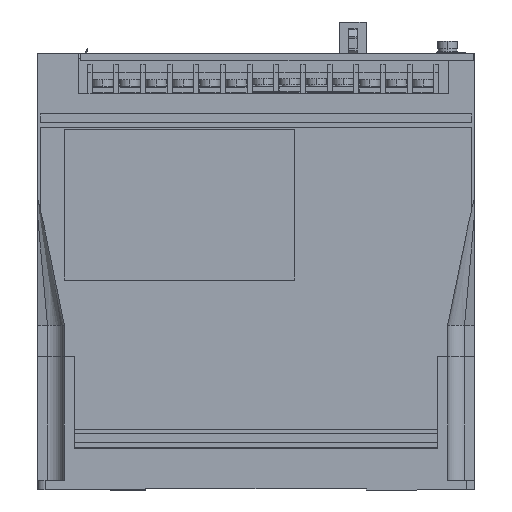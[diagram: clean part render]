
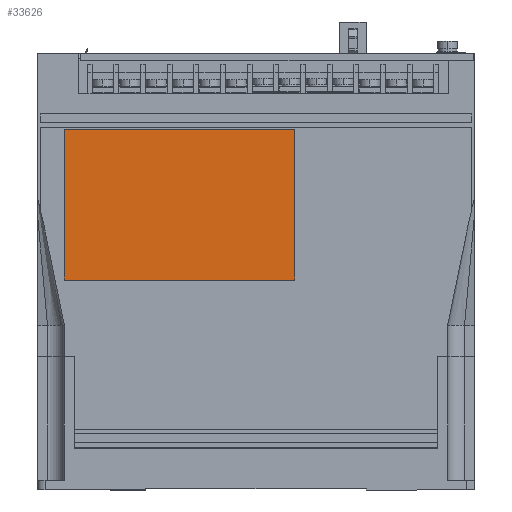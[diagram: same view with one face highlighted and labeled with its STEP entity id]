
A CAD part, left-side view. The second image highlights one B-rep face of the part: STEP entity #33626.
In plain terms, the highlighted planar face has unit normal (-1, 0, 0).
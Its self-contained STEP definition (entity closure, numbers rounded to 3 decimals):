
#33549 = ORIENTED_EDGE ( 'NONE', *, *, #33560, .T. ) ;
#33551 = EDGE_CURVE ( 'NONE', #33552, #33569, #51383, .T. ) ;
#33552 = VERTEX_POINT ( 'NONE', #51379 ) ;
#33560 = EDGE_CURVE ( 'NONE', #33561, #33552, #51368, .T. ) ;
#33561 = VERTEX_POINT ( 'NONE', #51364 ) ;
#33566 = VERTEX_POINT ( 'NONE', #51358 ) ;
#33568 = EDGE_CURVE ( 'NONE', #33569, #33566, #51357, .T. ) ;
#33569 = VERTEX_POINT ( 'NONE', #51421 ) ;
#33621 = EDGE_CURVE ( 'NONE', #33566, #33561, #51480, .T. ) ;
#33626 = ADVANCED_FACE ( 'NONE', ( #51470 ), #51469, .T. ) ;
#33628 = EDGE_LOOP ( 'NONE', ( #33630, #33634, #33549, #33668 ) ) ;
#33630 = ORIENTED_EDGE ( 'NONE', *, *, #33568, .T. ) ;
#33634 = ORIENTED_EDGE ( 'NONE', *, *, #33621, .T. ) ;
#33668 = ORIENTED_EDGE ( 'NONE', *, *, #33551, .T. ) ;
#51357 = LINE ( 'NONE', #51424, #51423 ) ;
#51358 = CARTESIAN_POINT ( 'NONE',  ( -4.65, -101., 86.6 ) ) ;
#51364 = CARTESIAN_POINT ( 'NONE',  ( -4.65, -101., 148.6 ) ) ;
#51365 = DIRECTION ( 'NONE',  ( 0., 1., 0. ) ) ;
#51366 = VECTOR ( 'NONE', #51365, 1000. ) ;
#51367 = CARTESIAN_POINT ( 'NONE',  ( -4.65, -6., 148.6 ) ) ;
#51368 = LINE ( 'NONE', #51367, #51366 ) ;
#51379 = CARTESIAN_POINT ( 'NONE',  ( -4.65, -6., 148.6 ) ) ;
#51380 = DIRECTION ( 'NONE',  ( 0., 0., -1. ) ) ;
#51381 = VECTOR ( 'NONE', #51380, 1000. ) ;
#51382 = CARTESIAN_POINT ( 'NONE',  ( -4.65, -6., 86.6 ) ) ;
#51383 = LINE ( 'NONE', #51382, #51381 ) ;
#51421 = CARTESIAN_POINT ( 'NONE',  ( -4.65, -6., 86.6 ) ) ;
#51422 = DIRECTION ( 'NONE',  ( 0., -1., 0. ) ) ;
#51423 = VECTOR ( 'NONE', #51422, 1000. ) ;
#51424 = CARTESIAN_POINT ( 'NONE',  ( -4.65, -6., 86.6 ) ) ;
#51465 = DIRECTION ( 'NONE',  ( 0., 0., 1. ) ) ;
#51466 = DIRECTION ( 'NONE',  ( -1., 0., 0. ) ) ;
#51467 = CARTESIAN_POINT ( 'NONE',  ( -4.65, -101., 86.6 ) ) ;
#51468 = AXIS2_PLACEMENT_3D ( 'NONE', #51467, #51466, #51465 ) ;
#51469 = PLANE ( 'NONE',  #51468 ) ;
#51470 = FACE_OUTER_BOUND ( 'NONE', #33628, .T. ) ;
#51477 = DIRECTION ( 'NONE',  ( 0., 0., 1. ) ) ;
#51478 = VECTOR ( 'NONE', #51477, 1000. ) ;
#51479 = CARTESIAN_POINT ( 'NONE',  ( -4.65, -101., 86.6 ) ) ;
#51480 = LINE ( 'NONE', #51479, #51478 ) ;
